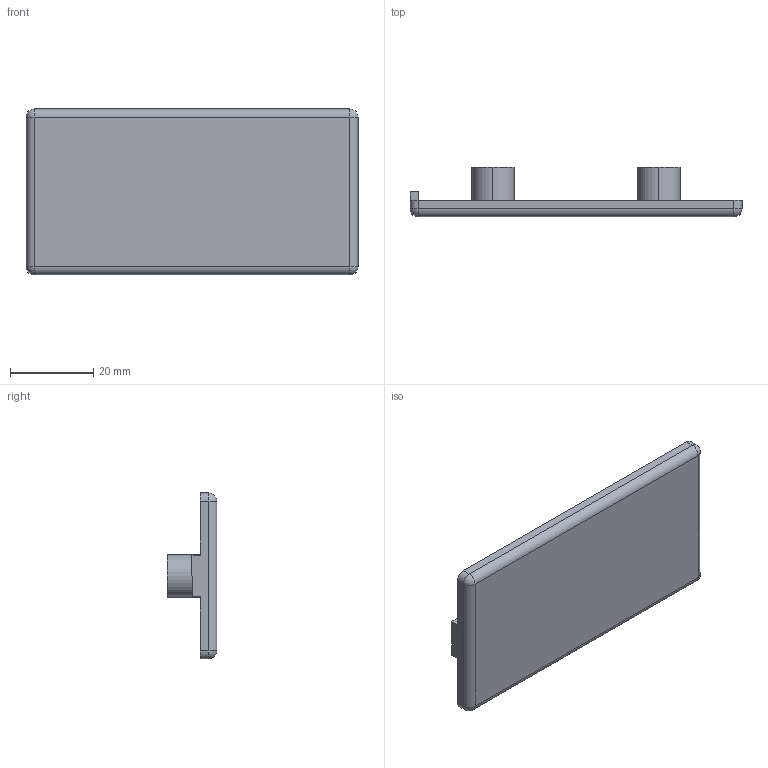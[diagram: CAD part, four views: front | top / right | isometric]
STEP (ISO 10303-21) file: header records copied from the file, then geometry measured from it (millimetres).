
FILE_DESCRIPTION (( 'STEP AP214' ), '1' );
FILE_NAME ('4036.STEP', '2019-04-15T05:22:34', ( '' ), ( '' ), 'SwSTEP 2.0', 'SolidWorks 2014', '' );
FILE_SCHEMA (( 'AUTOMOTIVE_DESIGN' ));
Length unit declared in the file: millimetre
Products named in the file (2): 4036
Bounding box: 80 x 12 x 40 mm (x, y, z)
Volume: 8229.4 mm3; surface area: 8641.6 mm2
Topology: 1 solids, 1 shells, 42 faces, 100 edges, 60 vertices
Faces by surface type: cylinder 20, plane 18, sphere 4
Entity records: 1233 total; most frequent: DIRECTION 224, CARTESIAN_POINT 200, ORIENTED_EDGE 192, EDGE_CURVE 96, AXIS2_PLACEMENT_3D 84, VERTEX_POINT 60, VECTOR 56, LINE 56
